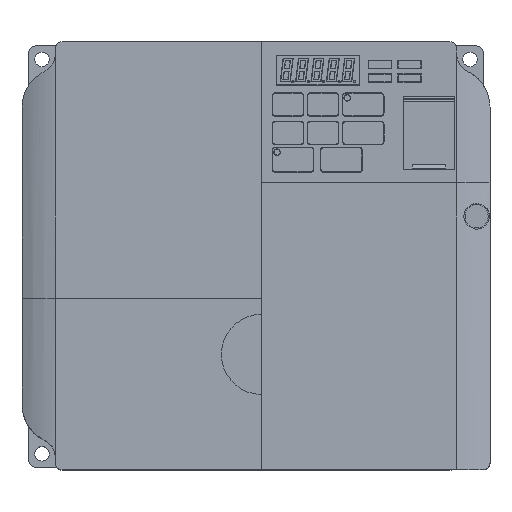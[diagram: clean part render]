
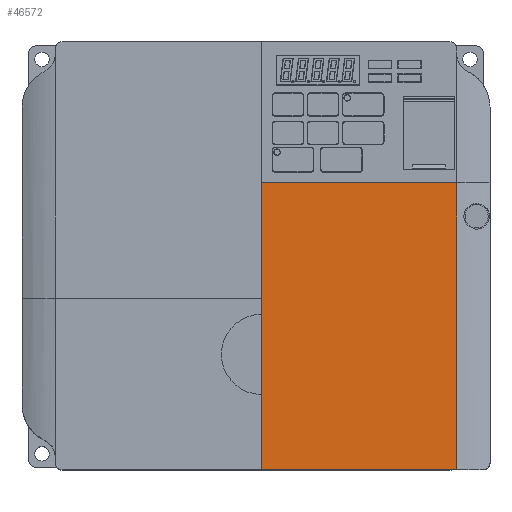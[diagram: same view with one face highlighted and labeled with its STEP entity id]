
A CAD part, top view. The second image highlights one B-rep face of the part: STEP entity #46572.
In plain terms, the highlighted planar face has unit normal (0, 0, 1).
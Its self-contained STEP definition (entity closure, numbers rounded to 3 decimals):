
#46083=DIRECTION('',(0.,-1.,0.));
#46084=VECTOR('',#46083,85.8);
#46085=CARTESIAN_POINT('',(-6.,10.,7.919));
#46086=LINE('',#46085,#46084);
#46167=DIRECTION('',(-1.,0.,0.));
#46168=VECTOR('',#46167,58.35);
#46169=CARTESIAN_POINT('',(-6.,-75.8,7.919));
#46170=LINE('',#46169,#46168);
#46176=DIRECTION('',(0.,1.,0.));
#46177=VECTOR('',#46176,85.8);
#46178=CARTESIAN_POINT('',(-64.35,-75.8,7.919));
#46179=LINE('',#46178,#46177);
#46193=DIRECTION('',(1.,0.,0.));
#46194=VECTOR('',#46193,58.35);
#46195=CARTESIAN_POINT('',(-64.35,10.,7.919));
#46196=LINE('',#46195,#46194);
#46376=CARTESIAN_POINT('',(-64.35,10.,7.919));
#46377=CARTESIAN_POINT('',(-6.,10.,7.919));
#46378=VERTEX_POINT('',#46376);
#46379=VERTEX_POINT('',#46377);
#46380=CARTESIAN_POINT('',(-6.,-75.8,7.919));
#46381=VERTEX_POINT('',#46380);
#46383=CARTESIAN_POINT('',(-64.35,-75.8,7.919));
#46384=VERTEX_POINT('',#46383);
#46561=CARTESIAN_POINT('',(-30.272,-32.779,7.919));
#46562=DIRECTION('',(0.,0.,1.));
#46563=DIRECTION('',(1.,0.,0.));
#46564=AXIS2_PLACEMENT_3D('',#46561,#46562,#46563);
#46565=PLANE('',#46564);
#46566=ORIENTED_EDGE('',*,*,#46541,.T.);
#46567=ORIENTED_EDGE('',*,*,#46556,.T.);
#46568=ORIENTED_EDGE('',*,*,#46442,.T.);
#46569=ORIENTED_EDGE('',*,*,#46526,.T.);
#46570=EDGE_LOOP('',(#46566,#46567,#46568,#46569));
#46571=FACE_OUTER_BOUND('',#46570,.F.);
#46572=ADVANCED_FACE('',(#46571),#46565,.T.);
#46442=EDGE_CURVE('',#46379,#46381,#46086,.T.);
#46526=EDGE_CURVE('',#46381,#46384,#46170,.T.);
#46541=EDGE_CURVE('',#46384,#46378,#46179,.T.);
#46556=EDGE_CURVE('',#46378,#46379,#46196,.T.);
